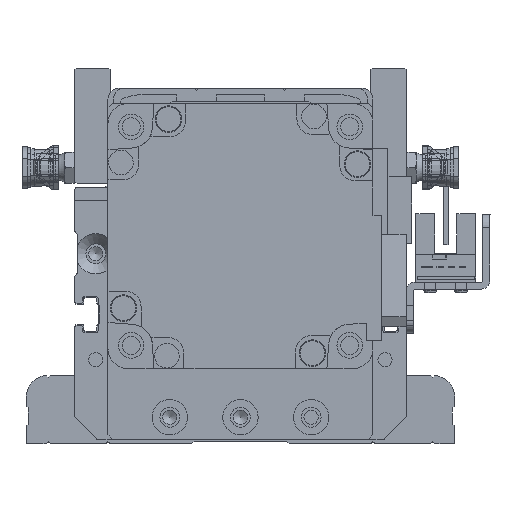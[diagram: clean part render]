
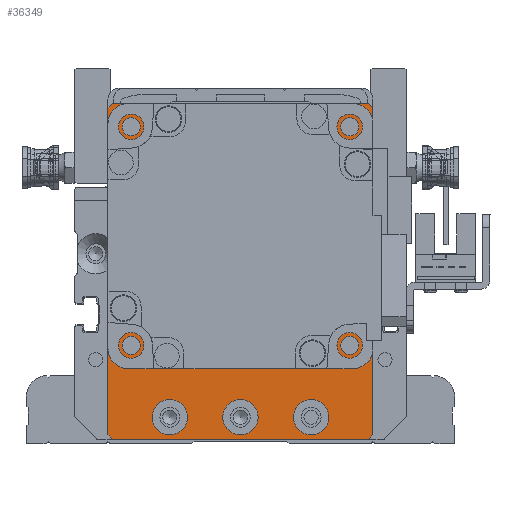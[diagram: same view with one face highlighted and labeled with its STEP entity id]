
A CAD part, front view. The second image highlights one B-rep face of the part: STEP entity #36349.
In plain terms, the highlighted planar face has unit normal (0, -1, 0) as drawn and (0, 0, 1) by its records, which use the part's own axes.
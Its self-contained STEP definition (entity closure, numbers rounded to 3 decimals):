
#1288=FACE_BOUND('',#6894,.T.);
#1289=FACE_BOUND('',#6895,.T.);
#1290=FACE_BOUND('',#6896,.T.);
#1291=FACE_BOUND('',#6897,.T.);
#1292=FACE_BOUND('',#6898,.T.);
#1293=FACE_BOUND('',#6899,.T.);
#1294=FACE_BOUND('',#6900,.T.);
#1295=FACE_BOUND('',#6901,.T.);
#2302=PLANE('',#40538);
#4655=FACE_OUTER_BOUND('',#6893,.T.);
#6893=EDGE_LOOP('',(#32111,#32112,#32113,#32114,#32115,#32116,#32117,#32118));
#6894=EDGE_LOOP('',(#32119));
#6895=EDGE_LOOP('',(#32120));
#6896=EDGE_LOOP('',(#32121));
#6897=EDGE_LOOP('',(#32122));
#6898=EDGE_LOOP('',(#32123));
#6899=EDGE_LOOP('',(#32124));
#6900=EDGE_LOOP('',(#32125));
#6901=EDGE_LOOP('',(#32126));
#9643=LINE('',#62872,#12509);
#9645=LINE('',#62876,#12511);
#9648=LINE('',#62882,#12514);
#9649=LINE('',#62884,#12515);
#9650=LINE('',#62886,#12516);
#9651=LINE('',#62888,#12517);
#9652=LINE('',#62890,#12518);
#9653=LINE('',#62891,#12519);
#12509=VECTOR('',#49788,10.);
#12511=VECTOR('',#49792,10.);
#12514=VECTOR('',#49797,10.);
#12515=VECTOR('',#49798,10.);
#12516=VECTOR('',#49799,10.);
#12517=VECTOR('',#49800,10.);
#12518=VECTOR('',#49801,10.);
#12519=VECTOR('',#49802,10.);
#14698=CIRCLE('',#40539,25.);
#14699=CIRCLE('',#40540,2.067);
#14700=CIRCLE('',#40541,2.067);
#14701=CIRCLE('',#40542,2.067);
#14702=CIRCLE('',#40543,2.067);
#14703=CIRCLE('',#40544,4.);
#14704=CIRCLE('',#40545,4.);
#14705=CIRCLE('',#40546,4.);
#17917=VERTEX_POINT('',#62869);
#17918=VERTEX_POINT('',#62871);
#17919=VERTEX_POINT('',#62875);
#17921=VERTEX_POINT('',#62881);
#17922=VERTEX_POINT('',#62883);
#17923=VERTEX_POINT('',#62885);
#17924=VERTEX_POINT('',#62887);
#17925=VERTEX_POINT('',#62889);
#17926=VERTEX_POINT('',#62892);
#17927=VERTEX_POINT('',#62894);
#17928=VERTEX_POINT('',#62896);
#17929=VERTEX_POINT('',#62898);
#17930=VERTEX_POINT('',#62900);
#17931=VERTEX_POINT('',#62902);
#17932=VERTEX_POINT('',#62904);
#17933=VERTEX_POINT('',#62906);
#22790=EDGE_CURVE('',#17918,#17917,#9643,.T.);
#22792=EDGE_CURVE('',#17918,#17919,#9645,.T.);
#22795=EDGE_CURVE('',#17921,#17917,#9648,.T.);
#22796=EDGE_CURVE('',#17921,#17922,#9649,.T.);
#22797=EDGE_CURVE('',#17923,#17922,#9650,.T.);
#22798=EDGE_CURVE('',#17923,#17924,#9651,.T.);
#22799=EDGE_CURVE('',#17925,#17924,#9652,.T.);
#22800=EDGE_CURVE('',#17925,#17919,#9653,.T.);
#22801=EDGE_CURVE('',#17926,#17926,#14698,.T.);
#22802=EDGE_CURVE('',#17927,#17927,#14699,.T.);
#22803=EDGE_CURVE('',#17928,#17928,#14700,.T.);
#22804=EDGE_CURVE('',#17929,#17929,#14701,.T.);
#22805=EDGE_CURVE('',#17930,#17930,#14702,.T.);
#22806=EDGE_CURVE('',#17931,#17931,#14703,.T.);
#22807=EDGE_CURVE('',#17932,#17932,#14704,.T.);
#22808=EDGE_CURVE('',#17933,#17933,#14705,.T.);
#32111=ORIENTED_EDGE('',*,*,#22792,.F.);
#32112=ORIENTED_EDGE('',*,*,#22790,.T.);
#32113=ORIENTED_EDGE('',*,*,#22795,.F.);
#32114=ORIENTED_EDGE('',*,*,#22796,.T.);
#32115=ORIENTED_EDGE('',*,*,#22797,.F.);
#32116=ORIENTED_EDGE('',*,*,#22798,.T.);
#32117=ORIENTED_EDGE('',*,*,#22799,.F.);
#32118=ORIENTED_EDGE('',*,*,#22800,.T.);
#32119=ORIENTED_EDGE('',*,*,#22801,.T.);
#32120=ORIENTED_EDGE('',*,*,#22802,.T.);
#32121=ORIENTED_EDGE('',*,*,#22803,.T.);
#32122=ORIENTED_EDGE('',*,*,#22804,.T.);
#32123=ORIENTED_EDGE('',*,*,#22805,.T.);
#32124=ORIENTED_EDGE('',*,*,#22806,.T.);
#32125=ORIENTED_EDGE('',*,*,#22807,.T.);
#32126=ORIENTED_EDGE('',*,*,#22808,.T.);
#36349=ADVANCED_FACE('',(#4655,#1288,#1289,#1290,#1291,#1292,#1293,#1294,
#1295),#2302,.T.);
#40538=AXIS2_PLACEMENT_3D('',#62880,#49795,#49796);
#40539=AXIS2_PLACEMENT_3D('',#62893,#49803,#49804);
#40540=AXIS2_PLACEMENT_3D('',#62895,#49805,#49806);
#40541=AXIS2_PLACEMENT_3D('',#62897,#49807,#49808);
#40542=AXIS2_PLACEMENT_3D('',#62899,#49809,#49810);
#40543=AXIS2_PLACEMENT_3D('',#62901,#49811,#49812);
#40544=AXIS2_PLACEMENT_3D('',#62903,#49813,#49814);
#40545=AXIS2_PLACEMENT_3D('',#62905,#49815,#49816);
#40546=AXIS2_PLACEMENT_3D('',#62907,#49817,#49818);
#49788=DIRECTION('',(1.,0.,0.));
#49792=DIRECTION('',(-0.707,0.707,0.));
#49795=DIRECTION('center_axis',(0.,0.,1.));
#49796=DIRECTION('ref_axis',(1.,0.,0.));
#49797=DIRECTION('',(-0.707,-0.707,0.));
#49798=DIRECTION('',(0.,1.,0.));
#49799=DIRECTION('',(0.707,-0.707,0.));
#49800=DIRECTION('',(-1.,0.,0.));
#49801=DIRECTION('',(0.707,0.707,0.));
#49802=DIRECTION('',(0.,-1.,0.));
#49803=DIRECTION('center_axis',(0.,0.,-1.));
#49804=DIRECTION('ref_axis',(1.,0.,0.));
#49805=DIRECTION('center_axis',(0.,0.,-1.));
#49806=DIRECTION('ref_axis',(1.,0.,0.));
#49807=DIRECTION('center_axis',(0.,0.,-1.));
#49808=DIRECTION('ref_axis',(1.,0.,0.));
#49809=DIRECTION('center_axis',(0.,0.,-1.));
#49810=DIRECTION('ref_axis',(1.,0.,0.));
#49811=DIRECTION('center_axis',(0.,0.,-1.));
#49812=DIRECTION('ref_axis',(1.,0.,0.));
#49813=DIRECTION('center_axis',(0.,0.,-1.));
#49814=DIRECTION('ref_axis',(1.,0.,0.));
#49815=DIRECTION('center_axis',(0.,0.,-1.));
#49816=DIRECTION('ref_axis',(1.,0.,0.));
#49817=DIRECTION('center_axis',(0.,0.,-1.));
#49818=DIRECTION('ref_axis',(1.,0.,0.));
#62869=CARTESIAN_POINT('',(29.,-38.,59.));
#62871=CARTESIAN_POINT('',(-29.,-38.,59.));
#62872=CARTESIAN_POINT('',(-30.,-38.,59.));
#62875=CARTESIAN_POINT('',(-30.,-37.,59.));
#62876=CARTESIAN_POINT('',(-31.5,-35.5,59.));
#62880=CARTESIAN_POINT('Origin',(0.,0.,
59.));
#62881=CARTESIAN_POINT('',(30.,-37.,59.));
#62882=CARTESIAN_POINT('',(31.5,-35.5,59.));
#62883=CARTESIAN_POINT('',(30.,37.,59.));
#62884=CARTESIAN_POINT('',(30.,-38.,59.));
#62885=CARTESIAN_POINT('',(29.,38.,59.));
#62886=CARTESIAN_POINT('',(31.5,35.5,59.));
#62887=CARTESIAN_POINT('',(-29.,38.,59.));
#62888=CARTESIAN_POINT('',(30.,38.,59.));
#62889=CARTESIAN_POINT('',(-30.,37.,59.));
#62890=CARTESIAN_POINT('',(-31.5,35.5,59.));
#62891=CARTESIAN_POINT('',(-30.,38.,59.));
#62892=CARTESIAN_POINT('',(-25.,8.,59.));
#62893=CARTESIAN_POINT('Origin',(0.,8.,59.));
#62894=CARTESIAN_POINT('',(22.682,-16.749,59.));
#62895=CARTESIAN_POINT('Origin',(24.749,-16.749,59.));
#62896=CARTESIAN_POINT('',(22.682,32.749,59.));
#62897=CARTESIAN_POINT('Origin',(24.749,32.749,59.));
#62898=CARTESIAN_POINT('',(-26.816,32.749,59.));
#62899=CARTESIAN_POINT('Origin',(-24.749,32.749,59.));
#62900=CARTESIAN_POINT('',(-26.816,-16.749,59.));
#62901=CARTESIAN_POINT('Origin',(-24.749,-16.749,59.));
#62902=CARTESIAN_POINT('',(12.,-33.,59.));
#62903=CARTESIAN_POINT('Origin',(16.,-33.,59.));
#62904=CARTESIAN_POINT('',(-4.,-33.,59.));
#62905=CARTESIAN_POINT('Origin',(0.,-33.,59.));
#62906=CARTESIAN_POINT('',(-20.,-33.,59.));
#62907=CARTESIAN_POINT('Origin',(-16.,-33.,59.));
